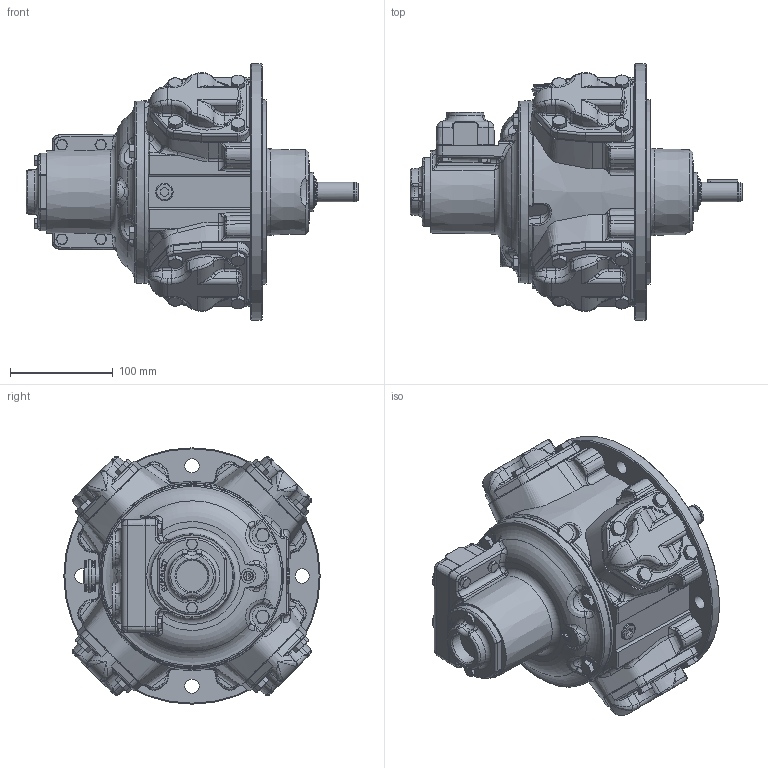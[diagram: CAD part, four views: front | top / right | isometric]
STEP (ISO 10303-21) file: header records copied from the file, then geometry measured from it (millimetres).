
FILE_DESCRIPTION (( 'STEP AP214' ), '1' );
FILE_NAME ('RM210.STEP', '2022-03-15T11:18:02', ( '' ), ( '' ), 'SwSTEP 2.0', 'SolidWorks 2020', '' );
FILE_SCHEMA (( 'AUTOMOTIVE_DESIGN' ));
Length unit declared in the file: millimetre
Products named in the file (1): RM210
Bounding box: 323.79 x 250 x 250 mm (x, y, z)
Volume: 5933111.9 mm3; surface area: 277192.2 mm2
Topology: 1 solids, 1 shells, 2176 faces, 5427 edges, 3261 vertices
Faces by surface type: plane 909, bspline 447, cylinder 332, cone 316, torus 166, sphere 6
Full cylindrical faces by diameter (mm): 1.9 x2, 6.8 x1, 8.7 x1, 9.728 x1, 10 x6, 11.9 x4, 13 x16, 14 x5, 16 x8, 16.9 x1, 17 x8, 19.003 x1, 24.5 x2, 26.97 x1, 30.5 x1, 38.1 x1, 55.3 x1, 177.8 x1, 179.97 x1, 250 x1
Entity records: 94276 total; most frequent: CARTESIAN_POINT 46633, ORIENTED_EDGE 10382, DIRECTION 8651, EDGE_CURVE 5191, AXIS2_PLACEMENT_3D 3364, VERTEX_POINT 3207, EDGE_LOOP 2374, FACE_OUTER_BOUND 2246
